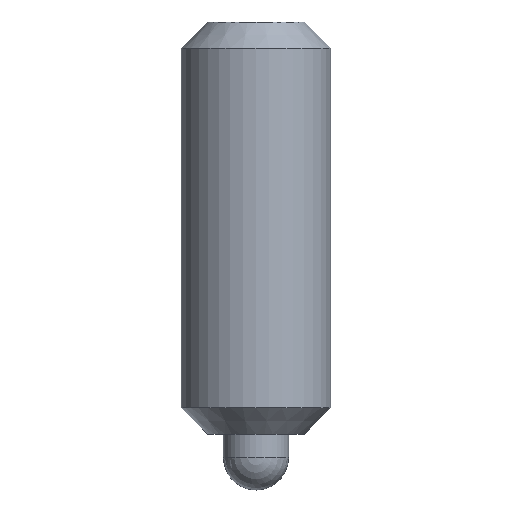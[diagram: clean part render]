
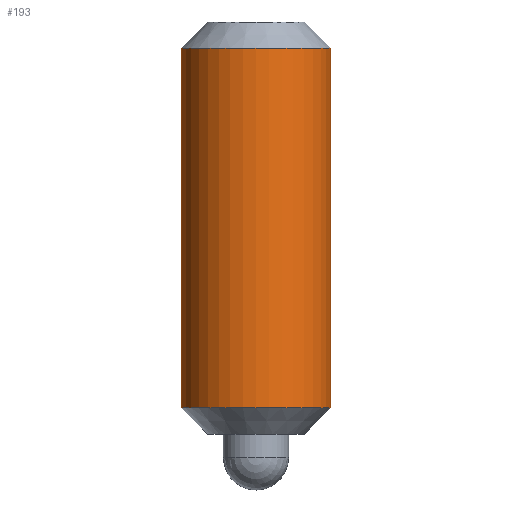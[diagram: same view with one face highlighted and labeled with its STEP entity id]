
A CAD part, front view. The second image highlights one B-rep face of the part: STEP entity #193.
In plain terms, the highlighted cylindrical face has radius 4 mm (diameter 8 mm), a partial arc.
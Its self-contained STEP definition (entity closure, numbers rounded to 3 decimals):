
#1 = LINE ( 'NONE', #426, #290 ) ;
#11 = DIRECTION ( 'NONE',  ( 0., 0., -1. ) ) ;
#39 = CIRCLE ( 'NONE', #250, 4. ) ;
#42 = EDGE_CURVE ( 'NONE', #460, #104, #39, .T. ) ;
#79 = DIRECTION ( 'NONE',  ( 0., 0., -1. ) ) ;
#85 = CIRCLE ( 'NONE', #169, 4. ) ;
#95 = CARTESIAN_POINT ( 'NONE',  ( -4., 0., -1. ) ) ;
#104 = VERTEX_POINT ( 'NONE', #420 ) ;
#143 = ORIENTED_EDGE ( 'NONE', *, *, #42, .T. ) ;
#169 = AXIS2_PLACEMENT_3D ( 'NONE', #396, #11, #536 ) ;
#193 = ADVANCED_FACE ( 'NONE', ( #293 ), #248, .T. ) ;
#194 = ORIENTED_EDGE ( 'NONE', *, *, #525, .F. ) ;
#197 = CARTESIAN_POINT ( 'NONE',  ( -4., 0., 23.6 ) ) ;
#201 = DIRECTION ( 'NONE',  ( 0., 0., -1. ) ) ;
#205 = DIRECTION ( 'NONE',  ( -1., 0., 0. ) ) ;
#248 = CYLINDRICAL_SURFACE ( 'NONE', #252, 4. ) ;
#250 = AXIS2_PLACEMENT_3D ( 'NONE', #375, #520, #553 ) ;
#252 = AXIS2_PLACEMENT_3D ( 'NONE', #428, #201, #205 ) ;
#290 = VECTOR ( 'NONE', #79, 1000. ) ;
#293 = FACE_OUTER_BOUND ( 'NONE', #482, .T. ) ;
#299 = CARTESIAN_POINT ( 'NONE',  ( 4., 0., 23.6 ) ) ;
#323 = VECTOR ( 'NONE', #449, 1000. ) ;
#375 = CARTESIAN_POINT ( 'NONE',  ( 0., 0., 4.4 ) ) ;
#396 = CARTESIAN_POINT ( 'NONE',  ( 0., 0., 23.6 ) ) ;
#401 = EDGE_CURVE ( 'NONE', #509, #460, #486, .T. ) ;
#409 = EDGE_CURVE ( 'NONE', #499, #509, #85, .T. ) ;
#420 = CARTESIAN_POINT ( 'NONE',  ( 4., 0., 4.4 ) ) ;
#426 = CARTESIAN_POINT ( 'NONE',  ( 4., 0., -1. ) ) ;
#427 = ORIENTED_EDGE ( 'NONE', *, *, #401, .T. ) ;
#428 = CARTESIAN_POINT ( 'NONE',  ( 0., 0., -1. ) ) ;
#449 = DIRECTION ( 'NONE',  ( 0., 0., -1. ) ) ;
#460 = VERTEX_POINT ( 'NONE', #523 ) ;
#482 = EDGE_LOOP ( 'NONE', ( #194, #534, #427, #143 ) ) ;
#486 = LINE ( 'NONE', #95, #323 ) ;
#499 = VERTEX_POINT ( 'NONE', #299 ) ;
#509 = VERTEX_POINT ( 'NONE', #197 ) ;
#520 = DIRECTION ( 'NONE',  ( 0., 0., 1. ) ) ;
#523 = CARTESIAN_POINT ( 'NONE',  ( -4., 0., 4.4 ) ) ;
#525 = EDGE_CURVE ( 'NONE', #499, #104, #1, .T. ) ;
#534 = ORIENTED_EDGE ( 'NONE', *, *, #409, .T. ) ;
#536 = DIRECTION ( 'NONE',  ( 1., 0., 0. ) ) ;
#553 = DIRECTION ( 'NONE',  ( -1., 0., 0. ) ) ;
